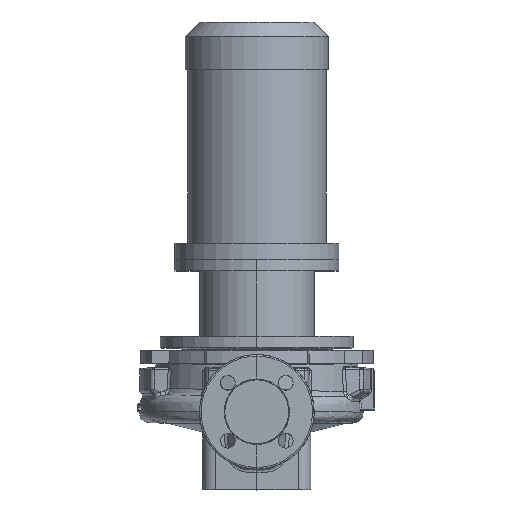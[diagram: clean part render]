
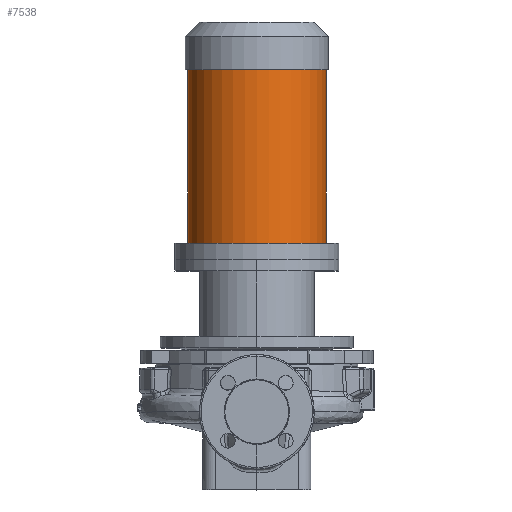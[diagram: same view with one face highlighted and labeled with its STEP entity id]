
A CAD part, top view. The second image highlights one B-rep face of the part: STEP entity #7538.
In plain terms, the highlighted cylindrical face has radius 84.5 mm (diameter 169 mm), a partial arc.
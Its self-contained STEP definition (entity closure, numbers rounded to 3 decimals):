
#2553 = AXIS2_PLACEMENT_3D ( 'NONE', #16209, #5450, #10842 ) ;
#4165 = VERTEX_POINT ( 'NONE', #63292 ) ;
#5450 = DIRECTION ( 'NONE',  ( 0., -1., 0. ) ) ;
#5639 = FACE_OUTER_BOUND ( 'NONE', #19567, .T. ) ;
#7224 = DIRECTION ( 'NONE',  ( 0., -1., 0. ) ) ;
#7538 = ADVANCED_FACE ( 'NONE', ( #5639 ), #29500, .T. ) ;
#10478 = CARTESIAN_POINT ( 'NONE',  ( 0., 418.3, 0. ) ) ;
#10842 = DIRECTION ( 'NONE',  ( -1., 0., 0. ) ) ;
#11988 = AXIS2_PLACEMENT_3D ( 'NONE', #10478, #60048, #45390 ) ;
#16209 = CARTESIAN_POINT ( 'NONE',  ( 0., 206.3, 0. ) ) ;
#19567 = EDGE_LOOP ( 'NONE', ( #41650, #24878, #38202, #57995 ) ) ;
#22576 = CARTESIAN_POINT ( 'NONE',  ( -84.5, 418.3, 0. ) ) ;
#24878 = ORIENTED_EDGE ( 'NONE', *, *, #59289, .T. ) ;
#26783 = CARTESIAN_POINT ( 'NONE',  ( 0., 186.3, 0. ) ) ;
#29113 = AXIS2_PLACEMENT_3D ( 'NONE', #26783, #7224, #42774 ) ;
#29500 = CYLINDRICAL_SURFACE ( 'NONE', #29113, 84.5 ) ;
#32352 = EDGE_CURVE ( 'NONE', #34323, #36215, #63168, .T. ) ;
#33830 = VERTEX_POINT ( 'NONE', #43990 ) ;
#34323 = VERTEX_POINT ( 'NONE', #22576 ) ;
#34412 = VECTOR ( 'NONE', #61140, 1000. ) ;
#36215 = VERTEX_POINT ( 'NONE', #49545 ) ;
#37368 = DIRECTION ( 'NONE',  ( 0., -1., 0. ) ) ;
#38202 = ORIENTED_EDGE ( 'NONE', *, *, #32352, .T. ) ;
#38732 = CIRCLE ( 'NONE', #11988, 84.5 ) ;
#39065 = LINE ( 'NONE', #50592, #34412 ) ;
#41650 = ORIENTED_EDGE ( 'NONE', *, *, #62738, .F. ) ;
#42774 = DIRECTION ( 'NONE',  ( -1., 0., 0. ) ) ;
#43990 = CARTESIAN_POINT ( 'NONE',  ( 84.5, 206.3, 0. ) ) ;
#45301 = EDGE_CURVE ( 'NONE', #33830, #36215, #52982, .T. ) ;
#45390 = DIRECTION ( 'NONE',  ( -1., 0., 0. ) ) ;
#49545 = CARTESIAN_POINT ( 'NONE',  ( -84.5, 206.3, 0. ) ) ;
#50059 = VECTOR ( 'NONE', #37368, 1000. ) ;
#50592 = CARTESIAN_POINT ( 'NONE',  ( 84.5, 186.3, 0. ) ) ;
#52982 = CIRCLE ( 'NONE', #2553, 84.5 ) ;
#57405 = CARTESIAN_POINT ( 'NONE',  ( -84.5, 186.3, 0. ) ) ;
#57995 = ORIENTED_EDGE ( 'NONE', *, *, #45301, .F. ) ;
#59289 = EDGE_CURVE ( 'NONE', #4165, #34323, #38732, .T. ) ;
#60048 = DIRECTION ( 'NONE',  ( 0., -1., 0. ) ) ;
#61140 = DIRECTION ( 'NONE',  ( 0., -1., 0. ) ) ;
#62738 = EDGE_CURVE ( 'NONE', #4165, #33830, #39065, .T. ) ;
#63168 = LINE ( 'NONE', #57405, #50059 ) ;
#63292 = CARTESIAN_POINT ( 'NONE',  ( 84.5, 418.3, 0. ) ) ;
